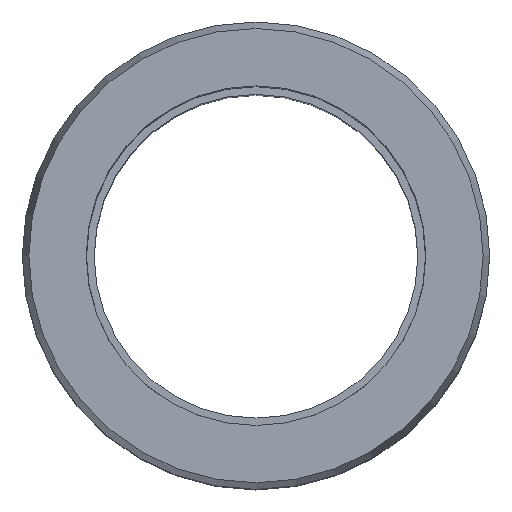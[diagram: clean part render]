
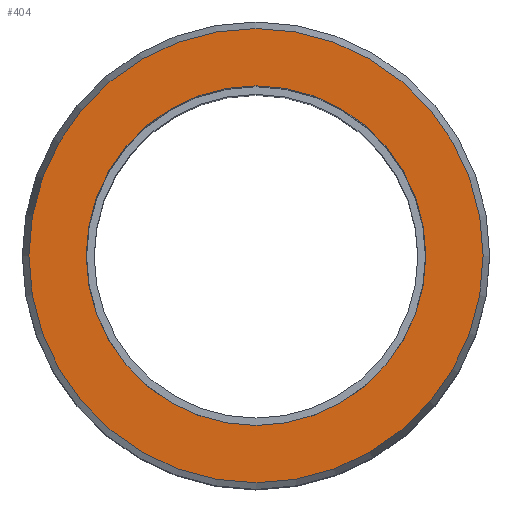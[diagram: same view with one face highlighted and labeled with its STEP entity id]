
A CAD part, top view. The second image highlights one B-rep face of the part: STEP entity #404.
In plain terms, the highlighted planar face has unit normal (0, 0, 1).
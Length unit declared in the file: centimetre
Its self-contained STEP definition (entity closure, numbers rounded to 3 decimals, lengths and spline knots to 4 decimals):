
#125=PLANE('',#459);
#152=VERTEX_POINT('',#640);
#153=VERTEX_POINT('',#643);
#180=CIRCLE('',#458,3.0662);
#181=CIRCLE('',#460,2.2924);
#208=EDGE_CURVE('',#152,#152,#180,.T.);
#209=EDGE_CURVE('',#153,#153,#181,.T.);
#262=ORIENTED_EDGE('',*,*,#209,.F.);
#263=ORIENTED_EDGE('',*,*,#208,.T.);
#318=EDGE_LOOP('',(#262));
#319=EDGE_LOOP('',(#263));
#374=FACE_BOUND('',#318,.T.);
#375=FACE_BOUND('',#319,.T.);
#404=ADVANCED_FACE('',(#374,#375),#125,.T.);
#458=AXIS2_PLACEMENT_3D('',#639,#554,#555);
#459=AXIS2_PLACEMENT_3D('',#641,#556,$);
#460=AXIS2_PLACEMENT_3D('',#642,#557,#558);
#554=DIRECTION('',(0.,0.,1.));
#555=DIRECTION('',(0.,3.066,0.));
#556=DIRECTION('',(0.,0.,1.));
#557=DIRECTION('',(0.,0.,1.));
#558=DIRECTION('',(0.,2.292,0.));
#639=CARTESIAN_POINT('',(0.,0.,0.));
#640=CARTESIAN_POINT('',(0.,3.0662,0.));
#641=CARTESIAN_POINT('',(0.,2.6793,0.));
#642=CARTESIAN_POINT('',(0.,0.,0.));
#643=CARTESIAN_POINT('',(0.,2.2924,0.));
